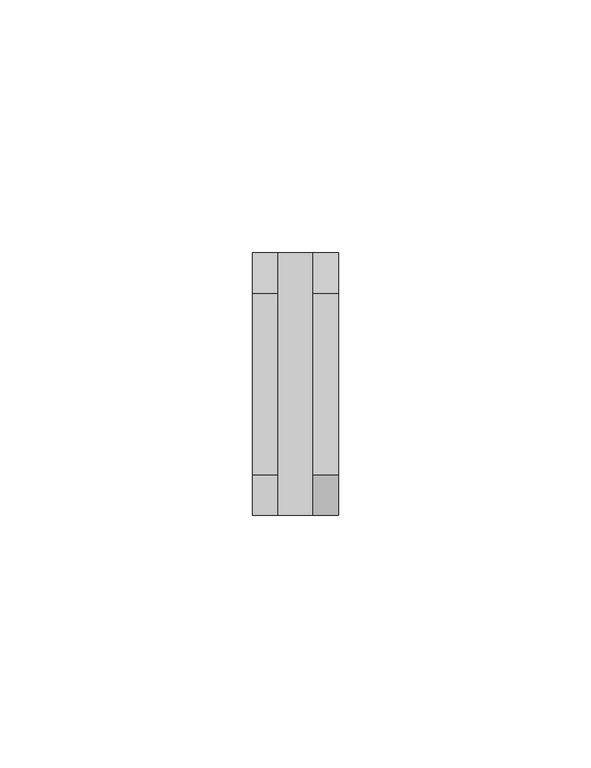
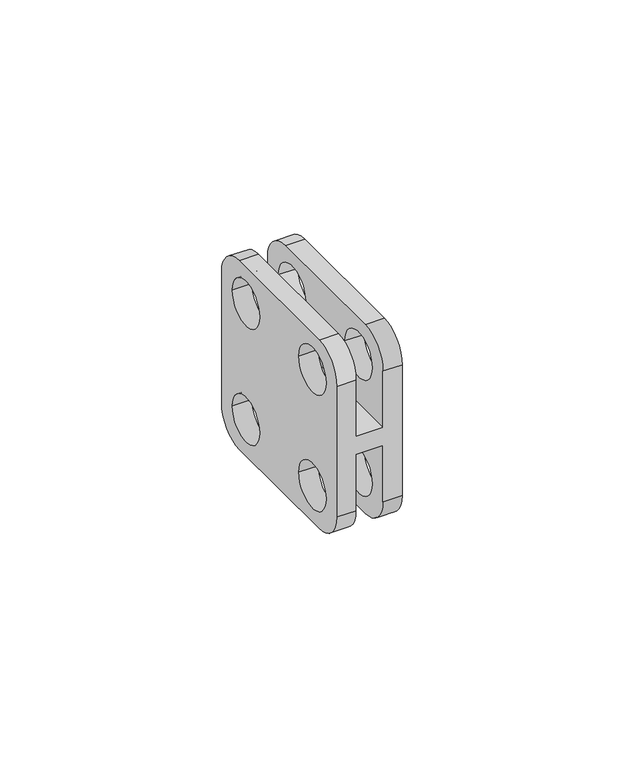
"""IFC4 building model written with IfcOpenShell, lengths in millimetres: proxy geometry, d&b VP Flying Adapter Link : VP Flying Adapter Link."""

from ifc_helpers import new_model, si_unit, frame, origin, place, context, project, spatial, polyline, circle_curve, source, transform, mapped, element, save
from ifc_brep_helpers import plane_surface, cylinder_surface, revolved_surface, advanced_brep


def communication_devices_675c7f0f(model_context):
    return source(origin(), model_context, "Body", "AdvancedBrep", [
        advanced_brep(
        [(-3.5, 18.0, -26.0), (-3.5, 26.0, -18.0), (-3.5, 26.0, -2.5), (-3.5, -26.0, -2.5), (-3.5, -26.0, -18.0), (-3.5, -18.0, -26.0), (-3.5, 21.15, -16.0), (-3.5, 8.85, -16.0), (-3.5, -21.15, -16.0), (-3.5, -8.85, -16.0), (-3.5, 26.0, 18.0), (-3.5, 18.0, 26.0), (-3.5, -18.0, 26.0), (-3.5, -26.0, 18.0), (-3.5, -26.0, 2.5), (-3.5, 26.0, 2.5), (-3.5, 21.15, 16.0), (-3.5, 8.85, 16.0), (-3.5, -21.15, 16.0), (-3.5, -8.85, 16.0), (-8.5, 18.0, -26.0), (-8.5, -18.0, -26.0), (-8.5, -26.0, -18.0), (-8.5, -26.0, 18.0), (-8.5, -18.0, 26.0), (-8.5, 18.0, 26.0), (-8.5, 26.0, 18.0), (-8.5, 26.0, -18.0), (-8.5, 21.15, -16.0), (-8.5, 8.85, -16.0), (-8.5, -21.15, -16.0), (-8.5, -8.85, -16.0), (-8.5, 21.15, 16.0), (-8.5, 8.85, 16.0), (-8.5, -21.15, 16.0), (-8.5, -8.85, 16.0), (3.5, 26.0, 2.5), (3.5, 26.0, 18.0), (8.5, 26.0, 18.0), (8.5, 26.0, -18.0), (3.5, 26.0, -18.0), (3.5, 26.0, -2.5), (3.5, -26.0, -2.5), (3.5, -26.0, -18.0), (8.5, -26.0, -18.0), (8.5, -26.0, 18.0), (3.5, -26.0, 18.0), (3.5, -26.0, 2.5), (3.5, 18.0, -26.0), (3.5, -18.0, -26.0), (3.5, 21.15, -16.0), (3.5, 8.85, -16.0), (3.5, -21.15, -16.0), (3.5, -8.85, -16.0), (3.5, -18.0, 26.0), (3.5, 18.0, 26.0), (3.5, 21.15, 16.0), (3.5, 8.85, 16.0), (3.5, -21.15, 16.0), (3.5, -8.85, 16.0), (8.5, 18.0, -26.0), (8.5, 18.0, 26.0), (8.5, -18.0, 26.0), (8.5, -18.0, -26.0), (8.5, 21.15, -16.0), (8.5, 8.85, -16.0), (8.5, -21.15, -16.0), (8.5, -8.85, -16.0), (8.5, 21.15, 16.0), (8.5, 8.85, 16.0), (8.5, -21.15, 16.0), (8.5, -8.85, 16.0)],
        [
            (0, 1, circle_curve(frame((-3.5, 18.0, -18.0), z_axis=(1.0, 0.0, 0.0), x_axis=(0.0, -1.0, 0.0)), 8.0)),
            (1, 2),
            (2, 3),
            (3, 4),
            (4, 5, circle_curve(frame((-3.5, -18.0, -18.0), z_axis=(1.0, 0.0, 0.0), x_axis=(0.0, -1.0, 0.0)), 8.0)),
            (5, 0),
            (6, 7, circle_curve(frame((-3.5, 15.0, -16.0), z_axis=(-1.0, 0.0, 0.0), x_axis=(0.0, -1.0, 0.0)), 6.15)),
            (7, 6, circle_curve(frame((-3.5, 15.0, -16.0), z_axis=(-1.0, 0.0, 0.0), x_axis=(0.0, -1.0, 0.0)), 6.15)),
            (8, 9, circle_curve(frame((-3.5, -15.0, -16.0), z_axis=(-1.0, 0.0, 0.0), x_axis=(0.0, 1.0, 0.0)), 6.15)),
            (9, 8, circle_curve(frame((-3.5, -15.0, -16.0), z_axis=(-1.0, 0.0, 0.0), x_axis=(0.0, 1.0, 0.0)), 6.15)),
            (10, 11, circle_curve(frame((-3.5, 18.0, 18.0), z_axis=(1.0, 0.0, 0.0), x_axis=(0.0, -1.0, 0.0)), 8.0)),
            (11, 12),
            (12, 13, circle_curve(frame((-3.5, -18.0, 18.0), z_axis=(1.0, 0.0, 0.0), x_axis=(0.0, -1.0, 0.0)), 8.0)),
            (13, 14),
            (14, 15),
            (15, 10),
            (16, 17, circle_curve(frame((-3.5, 15.0, 16.0), z_axis=(-1.0, 0.0, 0.0), x_axis=(0.0, -1.0, 0.0)), 6.15)),
            (17, 16, circle_curve(frame((-3.5, 15.0, 16.0), z_axis=(-1.0, 0.0, 0.0), x_axis=(0.0, -1.0, 0.0)), 6.15)),
            (18, 19, circle_curve(frame((-3.5, -15.0, 16.0), z_axis=(-1.0, 0.0, 0.0), x_axis=(0.0, 1.0, 0.0)), 6.15)),
            (19, 18, circle_curve(frame((-3.5, -15.0, 16.0), z_axis=(-1.0, 0.0, 0.0), x_axis=(0.0, 1.0, 0.0)), 6.15)),
            (20, 21),
            (21, 22, circle_curve(frame((-8.5, -18.0, -18.0), z_axis=(-1.0, 0.0, 0.0), x_axis=(0.0, -1.0, 0.0)), 8.0)),
            (22, 23),
            (23, 24, circle_curve(frame((-8.5, -18.0, 18.0), z_axis=(-1.0, 0.0, 0.0), x_axis=(0.0, -1.0, 0.0)), 8.0)),
            (24, 25),
            (25, 26, circle_curve(frame((-8.5, 18.0, 18.0), z_axis=(-1.0, 0.0, 0.0), x_axis=(0.0, -1.0, 0.0)), 8.0)),
            (26, 27),
            (27, 20, circle_curve(frame((-8.5, 18.0, -18.0), z_axis=(-1.0, 0.0, 0.0), x_axis=(0.0, -1.0, 0.0)), 8.0)),
            (28, 29, circle_curve(frame((-8.5, 15.0, -16.0), z_axis=(1.0, 0.0, 0.0), x_axis=(0.0, -1.0, 0.0)), 6.15)),
            (29, 28, circle_curve(frame((-8.5, 15.0, -16.0), z_axis=(1.0, 0.0, 0.0), x_axis=(0.0, -1.0, 0.0)), 6.15)),
            (30, 31, circle_curve(frame((-8.5, -15.0, -16.0), z_axis=(1.0, 0.0, 0.0), x_axis=(0.0, 1.0, 0.0)), 6.15)),
            (31, 30, circle_curve(frame((-8.5, -15.0, -16.0), z_axis=(1.0, 0.0, 0.0), x_axis=(0.0, 1.0, 0.0)), 6.15)),
            (32, 33, circle_curve(frame((-8.5, 15.0, 16.0), z_axis=(1.0, 0.0, 0.0), x_axis=(0.0, -1.0, 0.0)), 6.15)),
            (33, 32, circle_curve(frame((-8.5, 15.0, 16.0), z_axis=(1.0, 0.0, 0.0), x_axis=(0.0, -1.0, 0.0)), 6.15)),
            (34, 35, circle_curve(frame((-8.5, -15.0, 16.0), z_axis=(1.0, 0.0, 0.0), x_axis=(0.0, 1.0, 0.0)), 6.15)),
            (35, 34, circle_curve(frame((-8.5, -15.0, 16.0), z_axis=(1.0, 0.0, 0.0), x_axis=(0.0, 1.0, 0.0)), 6.15)),
            (0, 20),
            (27, 1),
            (26, 10),
            (15, 36),
            (36, 37),
            (37, 38),
            (38, 39),
            (39, 40),
            (40, 41),
            (41, 2),
            (25, 11),
            (24, 12),
            (23, 13),
            (22, 4),
            (3, 42),
            (42, 43),
            (43, 44),
            (44, 45),
            (45, 46),
            (46, 47),
            (47, 14),
            (21, 5),
            (6, 28),
            (29, 7),
            (8, 30),
            (31, 9),
            (16, 32),
            (33, 17),
            (18, 34),
            (35, 19),
            (41, 42),
            (47, 36),
            (48, 49),
            (49, 43, circle_curve(frame((3.5, -18.0, -18.0), z_axis=(-1.0, 0.0, 0.0), x_axis=(0.0, -1.0, 0.0)), 8.0)),
            (40, 48, circle_curve(frame((3.5, 18.0, -18.0), z_axis=(-1.0, 0.0, 0.0), x_axis=(0.0, -1.0, 0.0)), 8.0)),
            (50, 51, circle_curve(frame((3.5, 15.0, -16.0), z_axis=(1.0, 0.0, 0.0), x_axis=(0.0, -1.0, 0.0)), 6.15)),
            (51, 50, circle_curve(frame((3.5, 15.0, -16.0), z_axis=(1.0, 0.0, 0.0), x_axis=(0.0, -1.0, 0.0)), 6.15)),
            (52, 53, circle_curve(frame((3.5, -15.0, -16.0), z_axis=(1.0, 0.0, 0.0), x_axis=(0.0, 1.0, 0.0)), 6.15)),
            (53, 52, circle_curve(frame((3.5, -15.0, -16.0), z_axis=(1.0, 0.0, 0.0), x_axis=(0.0, 1.0, 0.0)), 6.15)),
            (46, 54, circle_curve(frame((3.5, -18.0, 18.0), z_axis=(-1.0, 0.0, 0.0), x_axis=(0.0, -1.0, 0.0)), 8.0)),
            (54, 55),
            (55, 37, circle_curve(frame((3.5, 18.0, 18.0), z_axis=(-1.0, 0.0, 0.0), x_axis=(0.0, -1.0, 0.0)), 8.0)),
            (56, 57, circle_curve(frame((3.5, 15.0, 16.0), z_axis=(1.0, 0.0, 0.0), x_axis=(0.0, -1.0, 0.0)), 6.15)),
            (57, 56, circle_curve(frame((3.5, 15.0, 16.0), z_axis=(1.0, 0.0, 0.0), x_axis=(0.0, -1.0, 0.0)), 6.15)),
            (58, 59, circle_curve(frame((3.5, -15.0, 16.0), z_axis=(1.0, 0.0, 0.0), x_axis=(0.0, 1.0, 0.0)), 6.15)),
            (59, 58, circle_curve(frame((3.5, -15.0, 16.0), z_axis=(1.0, 0.0, 0.0), x_axis=(0.0, 1.0, 0.0)), 6.15)),
            (60, 39, circle_curve(frame((8.5, 18.0, -18.0), z_axis=(1.0, 0.0, 0.0), x_axis=(0.0, -1.0, 0.0)), 8.0)),
            (38, 61, circle_curve(frame((8.5, 18.0, 18.0), z_axis=(1.0, 0.0, 0.0), x_axis=(0.0, -1.0, 0.0)), 8.0)),
            (61, 62),
            (62, 45, circle_curve(frame((8.5, -18.0, 18.0), z_axis=(1.0, 0.0, 0.0), x_axis=(0.0, -1.0, 0.0)), 8.0)),
            (44, 63, circle_curve(frame((8.5, -18.0, -18.0), z_axis=(1.0, 0.0, 0.0), x_axis=(0.0, -1.0, 0.0)), 8.0)),
            (63, 60),
            (64, 65, circle_curve(frame((8.5, 15.0, -16.0), z_axis=(-1.0, 0.0, 0.0), x_axis=(0.0, -1.0, 0.0)), 6.15)),
            (65, 64, circle_curve(frame((8.5, 15.0, -16.0), z_axis=(-1.0, 0.0, 0.0), x_axis=(0.0, -1.0, 0.0)), 6.15)),
            (66, 67, circle_curve(frame((8.5, -15.0, -16.0), z_axis=(-1.0, 0.0, 0.0), x_axis=(0.0, 1.0, 0.0)), 6.15)),
            (67, 66, circle_curve(frame((8.5, -15.0, -16.0), z_axis=(-1.0, 0.0, 0.0), x_axis=(0.0, 1.0, 0.0)), 6.15)),
            (68, 69, circle_curve(frame((8.5, 15.0, 16.0), z_axis=(-1.0, 0.0, 0.0), x_axis=(0.0, -1.0, 0.0)), 6.15)),
            (69, 68, circle_curve(frame((8.5, 15.0, 16.0), z_axis=(-1.0, 0.0, 0.0), x_axis=(0.0, -1.0, 0.0)), 6.15)),
            (70, 71, circle_curve(frame((8.5, -15.0, 16.0), z_axis=(-1.0, 0.0, 0.0), x_axis=(0.0, 1.0, 0.0)), 6.15)),
            (71, 70, circle_curve(frame((8.5, -15.0, 16.0), z_axis=(-1.0, 0.0, 0.0), x_axis=(0.0, 1.0, 0.0)), 6.15)),
            (60, 48),
            (55, 61),
            (54, 62),
            (49, 63),
            (51, 65),
            (64, 50),
            (53, 67),
            (66, 52),
            (57, 69),
            (68, 56),
            (59, 71),
            (70, 58),
        ],
        [
            plane_surface(frame((-3.5, 10.0, -18.0), z_axis=(1.0, 0.0, 0.0), x_axis=(0.0, 0.0, -1.0))),
            plane_surface(frame((-8.5, 10.0, -18.0), z_axis=(-1.0, 0.0, 0.0), x_axis=(0.0, 0.0, 1.0))),
            cylinder_surface(frame((-8.5, 18.0, -18.0), z_axis=(1.0, 0.0, 0.0), x_axis=(0.0, -1.0, 0.0)), 8.0),
            plane_surface(frame((-3.5, 26.0, -18.0), z_axis=(0.0, 1.0, 0.0), x_axis=(-1.0, 0.0, 0.0))),
            cylinder_surface(frame((-8.5, 18.0, 18.0), z_axis=(1.0, 0.0, 0.0), x_axis=(0.0, -1.0, 0.0)), 8.0),
            plane_surface(frame((-3.5, 18.0, 26.0), z_axis=(0.0, 0.0, 1.0), x_axis=(-1.0, 0.0, 0.0))),
            cylinder_surface(frame((-8.5, -18.0, 18.0), z_axis=(1.0, 0.0, 0.0), x_axis=(0.0, -1.0, 0.0)), 8.0),
            plane_surface(frame((-3.5, -26.0, 18.0), z_axis=(0.0, -1.0, 0.0), x_axis=(-1.0, 0.0, 0.0))),
            cylinder_surface(frame((-8.5, -18.0, -18.0), z_axis=(1.0, 0.0, 0.0), x_axis=(0.0, -1.0, 0.0)), 8.0),
            plane_surface(frame((-3.5, -18.0, -26.0), z_axis=(0.0, 0.0, -1.0), x_axis=(-1.0, 0.0, 0.0))),
            revolved_surface(polyline([(-8.5, 8.85, -16.0), (-3.5, 8.85, -16.0)]), (0.0, 15.0, -16.0), (-1.0, 0.0, 0.0)),
            revolved_surface(polyline([(-8.5, -8.85, -16.0), (-3.5, -8.85, -16.0)]), (0.0, -15.0, -16.0), (-1.0, 0.0, 0.0)),
            revolved_surface(polyline([(-8.5, 8.85, 16.0), (-3.5, 8.85, 16.0)]), (0.0, 15.0, 16.0), (-1.0, 0.0, 0.0)),
            revolved_surface(polyline([(-8.5, -8.85, 16.0), (-3.5, -8.85, 16.0)]), (0.0, -15.0, 16.0), (-1.0, 0.0, 0.0)),
            plane_surface(frame((3.5, -26.0, -2.5), z_axis=(0.0, 0.0, -1.0), x_axis=(-1.0, 0.0, 0.0))),
            plane_surface(frame((3.5, 26.0, 2.5), z_axis=(0.0, 0.0, 1.0), x_axis=(-1.0, 0.0, 0.0))),
            plane_surface(frame((3.5, -18.0, -26.0), z_axis=(-1.0, 0.0, 0.0), x_axis=(0.0, -1.0, 0.0))),
            plane_surface(frame((8.5, -18.0, -26.0), z_axis=(1.0, 0.0, 0.0), x_axis=(0.0, 1.0, 0.0))),
            cylinder_surface(frame((8.5, 18.0, -18.0), z_axis=(-1.0, 0.0, 0.0), x_axis=(0.0, -1.0, 0.0)), 8.0),
            cylinder_surface(frame((8.5, 18.0, 18.0), z_axis=(-1.0, 0.0, 0.0), x_axis=(0.0, -1.0, 0.0)), 8.0),
            plane_surface(frame((3.5, -18.0, 26.0), z_axis=(0.0, 0.0, 1.0), x_axis=(1.0, 0.0, 0.0))),
            cylinder_surface(frame((8.5, -18.0, 18.0), z_axis=(-1.0, 0.0, 0.0), x_axis=(0.0, -1.0, 0.0)), 8.0),
            cylinder_surface(frame((8.5, -18.0, -18.0), z_axis=(-1.0, 0.0, 0.0), x_axis=(0.0, -1.0, 0.0)), 8.0),
            plane_surface(frame((3.5, 18.0, -26.0), z_axis=(0.0, 0.0, -1.0), x_axis=(1.0, 0.0, 0.0))),
            revolved_surface(polyline([(8.5, 8.85, -16.0), (3.5, 8.85, -16.0)]), (0.0, 15.0, -16.0), (1.0, 0.0, 0.0)),
            revolved_surface(polyline([(8.5, -8.85, -16.0), (3.5, -8.85, -16.0)]), (0.0, -15.0, -16.0), (1.0, 0.0, 0.0)),
            revolved_surface(polyline([(8.5, 8.85, 16.0), (3.5, 8.85, 16.0)]), (0.0, 15.0, 16.0), (1.0, 0.0, 0.0)),
            revolved_surface(polyline([(8.5, -8.85, 16.0), (3.5, -8.85, 16.0)]), (0.0, -15.0, 16.0), (1.0, 0.0, 0.0)),
        ],
        [
            (0, [[1, 2, 3, 4, 5, 6], [7, 8], [9, 10]]),
            (0, [[11, 12, 13, 14, 15, 16], [17, 18], [19, 20]]),
            (1, [[21, 22, 23, 24, 25, 26, 27, 28], [29, 30], [31, 32], [33, 34], [35, 36]]),
            (2, [[-1, 37, -28, 38]]),
            (3, [[-27, 39, -16, 40, 41, 42, 43, 44, 45, 46, -2, -38]]),
            (4, [[-11, -39, -26, 47]]),
            (5, [[-12, -47, -25, 48]]),
            (6, [[-13, -48, -24, 49]]),
            (7, [[-23, 50, -4, 51, 52, 53, 54, 55, 56, 57, -14, -49]]),
            (8, [[-5, -50, -22, 58]]),
            (9, [[-6, -58, -21, -37]]),
            (10, [[-7, 59, -30, 60]]),
            (10, [[-8, -60, -29, -59]]),
            (11, [[-9, 61, -32, 62]]),
            (11, [[-10, -62, -31, -61]]),
            (12, [[-17, 63, -34, 64]]),
            (12, [[-18, -64, -33, -63]]),
            (13, [[-19, 65, -36, 66]]),
            (13, [[-20, -66, -35, -65]]),
            (14, [[-51, -3, -46, 67]]),
            (15, [[-57, 68, -40, -15]]),
            (16, [[69, 70, -52, -67, -45, 71], [72, 73], [74, 75]]),
            (16, [[76, 77, 78, -41, -68, -56], [79, 80], [81, 82]]),
            (17, [[83, -43, 84, 85, 86, -54, 87, 88], [89, 90], [91, 92], [93, 94], [95, 96]]),
            (18, [[-71, -44, -83, 97]]),
            (19, [[-78, 98, -84, -42]]),
            (20, [[-77, 99, -85, -98]]),
            (21, [[-76, -55, -86, -99]]),
            (22, [[-70, 100, -87, -53]]),
            (23, [[-69, -97, -88, -100]]),
            (24, [[-73, 101, -89, 102]]),
            (24, [[-72, -102, -90, -101]]),
            (25, [[-75, 103, -91, 104]]),
            (25, [[-74, -104, -92, -103]]),
            (26, [[-80, 105, -93, 106]]),
            (26, [[-79, -106, -94, -105]]),
            (27, [[-82, 107, -95, 108]]),
            (27, [[-81, -108, -96, -107]]),
        ],
    ),
    ])


if __name__ == "__main__":
    model = new_model("IFC4")
    model_context = context("Model", 3, world=origin())
    ifc_project = project(units=[si_unit("LENGTHUNIT", "METRE", prefix="MILLI")], contexts=[model_context])
    site = spatial("IfcSite", under=ifc_project)
    building = spatial("IfcBuilding", under=site)
    placement = place(None, origin())
    communication_devices_shape = communication_devices_675c7f0f(model_context)
    element("IfcBuildingElementProxy", 1, Name="d&b VP Flying Adapter Link : VP Flying Adapter Link", ObjectType="d&b VP Flying Adapter Link : VP Flying Adapter Link", at=placement, inside=building, context=model_context, shape_type="MappedRepresentation", body=[
        mapped(communication_devices_shape, transform((0.0, 0.0, 0.0), x_axis=(1.0, 0.0, 0.0), y_axis=(0.0, 1.0, 0.0), z_axis=(0.0, 0.0, 1.0))),
    ])
    save(model, "model.ifc")
